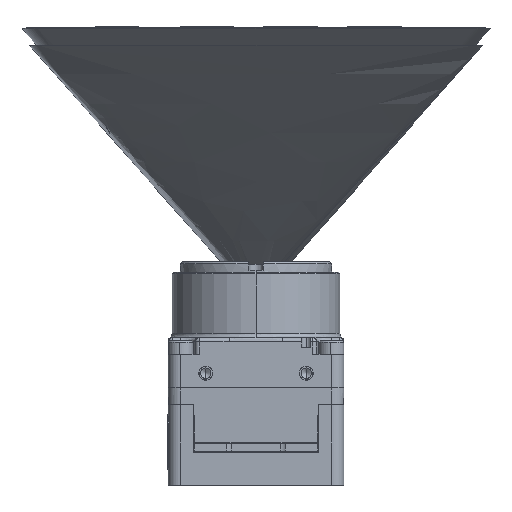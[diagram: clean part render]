
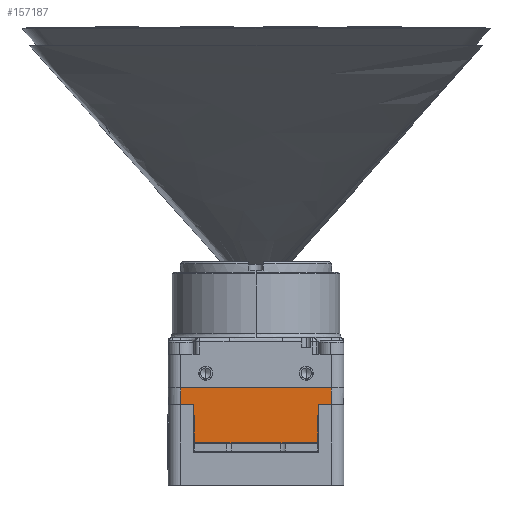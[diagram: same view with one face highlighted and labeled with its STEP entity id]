
A CAD part, left-side view. The second image highlights one B-rep face of the part: STEP entity #157187.
In plain terms, the highlighted planar face has unit normal (-1, 0, -0.018).
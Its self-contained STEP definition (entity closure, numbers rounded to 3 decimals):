
#7194 = DIRECTION ( 'NONE',  ( 0., -1., 0. ) ) ;
#7351 = VERTEX_POINT ( 'NONE', #89896 ) ;
#14007 = VECTOR ( 'NONE', #104587, 1000. ) ;
#14378 = EDGE_CURVE ( 'NONE', #31674, #125635, #47223, .T. ) ;
#19528 = LINE ( 'NONE', #60496, #168876 ) ;
#20926 = LINE ( 'NONE', #129662, #67950 ) ;
#27690 = CARTESIAN_POINT ( 'NONE',  ( -10.465, -8.965, 4.6 ) ) ;
#31075 = ORIENTED_EDGE ( 'NONE', *, *, #170365, .T. ) ;
#31674 = VERTEX_POINT ( 'NONE', #99228 ) ;
#32773 = PLANE ( 'NONE',  #157890 ) ;
#33347 = VECTOR ( 'NONE', #39668, 1000. ) ;
#33705 = EDGE_CURVE ( 'NONE', #156195, #149323, #164436, .T. ) ;
#34467 = DIRECTION ( 'NONE',  ( 0.017, -0.017, -1. ) ) ;
#35647 = CARTESIAN_POINT ( 'NONE',  ( -10.5, 0., 6.6 ) ) ;
#39668 = DIRECTION ( 'NONE',  ( 0.017, -0.017, -1. ) ) ;
#43279 = CARTESIAN_POINT ( 'NONE',  ( -10.494, -8.994, 6.26 ) ) ;
#43509 = EDGE_CURVE ( 'NONE', #149323, #7351, #20926, .T. ) ;
#47088 = DIRECTION ( 'NONE',  ( 0., -1., 0. ) ) ;
#47223 = LINE ( 'NONE', #35647, #125763 ) ;
#49581 = VERTEX_POINT ( 'NONE', #27690 ) ;
#53499 = ORIENTED_EDGE ( 'NONE', *, *, #87435, .F. ) ;
#57261 = CARTESIAN_POINT ( 'NONE',  ( -10.5, -9., 6.6 ) ) ;
#60368 = DIRECTION ( 'NONE',  ( -0.017, 0., 1. ) ) ;
#60496 = CARTESIAN_POINT ( 'NONE',  ( -10.465, -10.5, 4.6 ) ) ;
#64742 = ORIENTED_EDGE ( 'NONE', *, *, #14378, .F. ) ;
#67197 = CARTESIAN_POINT ( 'NONE',  ( -10.385, -10.5, 0. ) ) ;
#67950 = VECTOR ( 'NONE', #169845, 1000. ) ;
#69899 = VECTOR ( 'NONE', #176051, 1000. ) ;
#77703 = CARTESIAN_POINT ( 'NONE',  ( -10.465, 7.425, 4.6 ) ) ;
#79532 = CARTESIAN_POINT ( 'NONE',  ( -10.465, 0., 4.6 ) ) ;
#83328 = CARTESIAN_POINT ( 'NONE',  ( -10.465, 7.425, 4.6 ) ) ;
#87146 = DIRECTION ( 'NONE',  ( -1., 0., -0.017 ) ) ;
#87435 = EDGE_CURVE ( 'NONE', #125635, #49581, #153817, .T. ) ;
#87590 = ORIENTED_EDGE ( 'NONE', *, *, #113693, .T. ) ;
#89896 = CARTESIAN_POINT ( 'NONE',  ( -10.465, -7.425, 4.6 ) ) ;
#96138 = ORIENTED_EDGE ( 'NONE', *, *, #148995, .T. ) ;
#97817 = CARTESIAN_POINT ( 'NONE',  ( -10.385, -7.345, 0. ) ) ;
#98864 = VECTOR ( 'NONE', #34467, 1000. ) ;
#99228 = CARTESIAN_POINT ( 'NONE',  ( -10.5, 9., 6.6 ) ) ;
#100493 = FACE_OUTER_BOUND ( 'NONE', #136141, .T. ) ;
#102228 = VERTEX_POINT ( 'NONE', #146438 ) ;
#103069 = CARTESIAN_POINT ( 'NONE',  ( -10.5, 9., 6.6 ) ) ;
#104587 = DIRECTION ( 'NONE',  ( 0., -1., 0. ) ) ;
#105712 = LINE ( 'NONE', #103069, #98864 ) ;
#107426 = ORIENTED_EDGE ( 'NONE', *, *, #43509, .T. ) ;
#107520 = ORIENTED_EDGE ( 'NONE', *, *, #33705, .T. ) ;
#113693 = EDGE_CURVE ( 'NONE', #7351, #49581, #19528, .T. ) ;
#113909 = CARTESIAN_POINT ( 'NONE',  ( -10.5, -10.5, 6.6 ) ) ;
#124373 = LINE ( 'NONE', #83328, #33347 ) ;
#125635 = VERTEX_POINT ( 'NONE', #57261 ) ;
#125763 = VECTOR ( 'NONE', #7194, 1000. ) ;
#127604 = VERTEX_POINT ( 'NONE', #77703 ) ;
#129176 = CARTESIAN_POINT ( 'NONE',  ( -10.385, 7.345, 0. ) ) ;
#129662 = CARTESIAN_POINT ( 'NONE',  ( -10.385, -7.345, 0. ) ) ;
#133061 = LINE ( 'NONE', #79532, #14007 ) ;
#136141 = EDGE_LOOP ( 'NONE', ( #107520, #107426, #87590, #53499, #64742, #31075, #96138, #136477 ) ) ;
#136477 = ORIENTED_EDGE ( 'NONE', *, *, #147058, .T. ) ;
#143888 = VECTOR ( 'NONE', #152096, 1000. ) ;
#146438 = CARTESIAN_POINT ( 'NONE',  ( -10.465, 8.965, 4.6 ) ) ;
#147058 = EDGE_CURVE ( 'NONE', #127604, #156195, #124373, .T. ) ;
#148995 = EDGE_CURVE ( 'NONE', #102228, #127604, #133061, .T. ) ;
#149323 = VERTEX_POINT ( 'NONE', #97817 ) ;
#152096 = DIRECTION ( 'NONE',  ( 0.017, 0.017, -1. ) ) ;
#153817 = LINE ( 'NONE', #43279, #143888 ) ;
#156195 = VERTEX_POINT ( 'NONE', #129176 ) ;
#157187 = ADVANCED_FACE ( 'NONE', ( #100493 ), #32773, .T. ) ;
#157890 = AXIS2_PLACEMENT_3D ( 'NONE', #113909, #87146, #60368 ) ;
#164436 = LINE ( 'NONE', #67197, #69899 ) ;
#168876 = VECTOR ( 'NONE', #47088, 1000. ) ;
#169845 = DIRECTION ( 'NONE',  ( -0.017, -0.017, 1. ) ) ;
#170365 = EDGE_CURVE ( 'NONE', #31674, #102228, #105712, .T. ) ;
#176051 = DIRECTION ( 'NONE',  ( 0., -1., 0. ) ) ;
